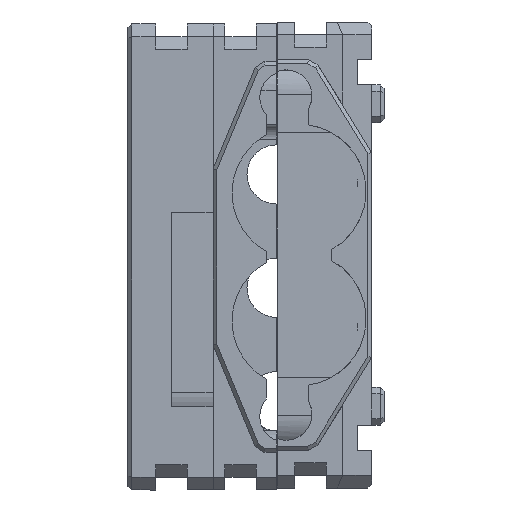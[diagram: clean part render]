
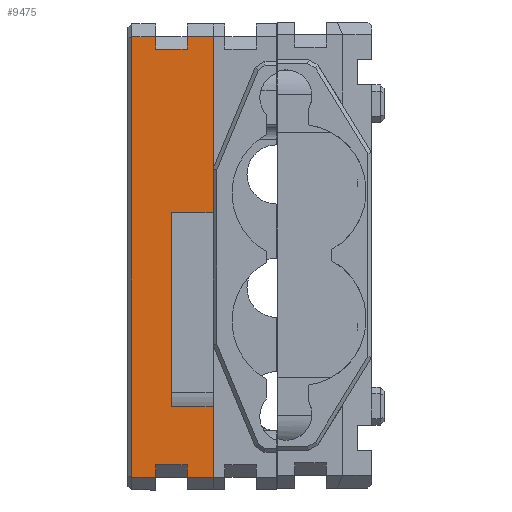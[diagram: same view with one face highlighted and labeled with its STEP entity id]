
A CAD part, left-side view. The second image highlights one B-rep face of the part: STEP entity #9475.
In plain terms, the highlighted planar face has unit normal (-1, 0, 0).
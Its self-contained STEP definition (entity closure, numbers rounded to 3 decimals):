
#861=LINE('',#14492,#2086);
#863=LINE('',#14496,#2088);
#864=LINE('',#14498,#2089);
#865=LINE('',#14500,#2090);
#866=LINE('',#14502,#2091);
#867=LINE('',#14504,#2092);
#868=LINE('',#14506,#2093);
#869=LINE('',#14508,#2094);
#870=LINE('',#14510,#2095);
#871=LINE('',#14512,#2096);
#872=LINE('',#14514,#2097);
#873=LINE('',#14516,#2098);
#874=LINE('',#14518,#2099);
#875=LINE('',#14520,#2100);
#876=LINE('',#14522,#2101);
#877=LINE('',#14523,#2102);
#2086=VECTOR('',#11782,10.);
#2088=VECTOR('',#11786,10.);
#2089=VECTOR('',#11787,10.);
#2090=VECTOR('',#11788,10.);
#2091=VECTOR('',#11789,10.);
#2092=VECTOR('',#11790,10.);
#2093=VECTOR('',#11791,10.);
#2094=VECTOR('',#11792,10.);
#2095=VECTOR('',#11793,10.);
#2096=VECTOR('',#11794,10.);
#2097=VECTOR('',#11795,10.);
#2098=VECTOR('',#11796,10.);
#2099=VECTOR('',#11797,10.);
#2100=VECTOR('',#11798,10.);
#2101=VECTOR('',#11799,10.);
#2102=VECTOR('',#11800,10.);
#2897=FACE_OUTER_BOUND('',#3403,.T.);
#3403=EDGE_LOOP('',(#7605,#7606,#7607,#7608,#7609,#7610,#7611,#7612,#7613,
#7614,#7615,#7616,#7617,#7618,#7619,#7620));
#4291=VERTEX_POINT('',#14489);
#4292=VERTEX_POINT('',#14491);
#4293=VERTEX_POINT('',#14495);
#4294=VERTEX_POINT('',#14497);
#4295=VERTEX_POINT('',#14499);
#4296=VERTEX_POINT('',#14501);
#4297=VERTEX_POINT('',#14503);
#4298=VERTEX_POINT('',#14505);
#4299=VERTEX_POINT('',#14507);
#4300=VERTEX_POINT('',#14509);
#4301=VERTEX_POINT('',#14511);
#4302=VERTEX_POINT('',#14513);
#4303=VERTEX_POINT('',#14515);
#4304=VERTEX_POINT('',#14517);
#4305=VERTEX_POINT('',#14519);
#4306=VERTEX_POINT('',#14521);
#5454=EDGE_CURVE('',#4292,#4291,#861,.T.);
#5456=EDGE_CURVE('',#4293,#4292,#863,.T.);
#5457=EDGE_CURVE('',#4291,#4294,#864,.T.);
#5458=EDGE_CURVE('',#4295,#4294,#865,.T.);
#5459=EDGE_CURVE('',#4296,#4295,#866,.T.);
#5460=EDGE_CURVE('',#4297,#4296,#867,.T.);
#5461=EDGE_CURVE('',#4298,#4297,#868,.T.);
#5462=EDGE_CURVE('',#4299,#4298,#869,.T.);
#5463=EDGE_CURVE('',#4300,#4299,#870,.T.);
#5464=EDGE_CURVE('',#4301,#4300,#871,.T.);
#5465=EDGE_CURVE('',#4302,#4301,#872,.T.);
#5466=EDGE_CURVE('',#4303,#4302,#873,.T.);
#5467=EDGE_CURVE('',#4304,#4303,#874,.T.);
#5468=EDGE_CURVE('',#4305,#4304,#875,.T.);
#5469=EDGE_CURVE('',#4306,#4305,#876,.T.);
#5470=EDGE_CURVE('',#4306,#4293,#877,.T.);
#7605=ORIENTED_EDGE('',*,*,#5456,.T.);
#7606=ORIENTED_EDGE('',*,*,#5454,.T.);
#7607=ORIENTED_EDGE('',*,*,#5457,.T.);
#7608=ORIENTED_EDGE('',*,*,#5458,.F.);
#7609=ORIENTED_EDGE('',*,*,#5459,.F.);
#7610=ORIENTED_EDGE('',*,*,#5460,.F.);
#7611=ORIENTED_EDGE('',*,*,#5461,.F.);
#7612=ORIENTED_EDGE('',*,*,#5462,.F.);
#7613=ORIENTED_EDGE('',*,*,#5463,.F.);
#7614=ORIENTED_EDGE('',*,*,#5464,.F.);
#7615=ORIENTED_EDGE('',*,*,#5465,.F.);
#7616=ORIENTED_EDGE('',*,*,#5466,.F.);
#7617=ORIENTED_EDGE('',*,*,#5467,.F.);
#7618=ORIENTED_EDGE('',*,*,#5468,.F.);
#7619=ORIENTED_EDGE('',*,*,#5469,.F.);
#7620=ORIENTED_EDGE('',*,*,#5470,.T.);
#9022=PLANE('',#10077);
#9475=ADVANCED_FACE('',(#2897),#9022,.T.);
#10077=AXIS2_PLACEMENT_3D('',#14494,#11784,#11785);
#11782=DIRECTION('',(0.,0.,1.));
#11784=DIRECTION('center_axis',(-1.,0.,0.));
#11785=DIRECTION('ref_axis',(0.,0.,1.));
#11786=DIRECTION('',(0.,1.,0.));
#11787=DIRECTION('',(0.,-1.,0.));
#11788=DIRECTION('',(0.,0.,-1.));
#11789=DIRECTION('',(0.,-1.,0.));
#11790=DIRECTION('',(0.,0.,1.));
#11791=DIRECTION('',(0.,-1.,0.));
#11792=DIRECTION('',(0.,0.,-1.));
#11793=DIRECTION('',(0.,-1.,0.));
#11794=DIRECTION('',(0.,0.,1.));
#11795=DIRECTION('',(0.,1.,0.));
#11796=DIRECTION('',(0.,0.,-1.));
#11797=DIRECTION('',(0.,1.,0.));
#11798=DIRECTION('',(0.,0.,1.));
#11799=DIRECTION('',(0.,1.,0.));
#11800=DIRECTION('',(0.,0.,1.));
#14489=CARTESIAN_POINT('',(-8.752,3.82,-11.975));
#14491=CARTESIAN_POINT('',(-8.753,3.82,-27.375));
#14492=CARTESIAN_POINT('',(-8.752,3.82,-24.612));
#14494=CARTESIAN_POINT('Origin',(-8.752,-8.885,-37.25));
#14495=CARTESIAN_POINT('',(-8.753,0.5,-27.375));
#14496=CARTESIAN_POINT('',(-8.752,-2.783,-27.375));
#14497=CARTESIAN_POINT('',(-8.752,0.5,-11.975));
#14498=CARTESIAN_POINT('',(-8.752,-2.783,-11.975));
#14499=CARTESIAN_POINT('',(-8.752,0.5,2.));
#14500=CARTESIAN_POINT('',(-8.752,0.5,3.));
#14501=CARTESIAN_POINT('',(-8.753,2.57,2.));
#14502=CARTESIAN_POINT('',(-8.752,-0.808,2.));
#14503=CARTESIAN_POINT('',(-8.752,2.57,1.));
#14504=CARTESIAN_POINT('',(-8.752,2.57,-17.125));
#14505=CARTESIAN_POINT('',(-8.752,5.07,1.));
#14506=CARTESIAN_POINT('',(-8.752,-0.808,1.));
#14507=CARTESIAN_POINT('',(-8.752,5.07,2.));
#14508=CARTESIAN_POINT('',(-8.752,5.07,-17.125));
#14509=CARTESIAN_POINT('',(-8.752,6.97,2.));
#14510=CARTESIAN_POINT('',(-8.752,-0.808,2.));
#14511=CARTESIAN_POINT('',(-8.752,6.97,-33.));
#14512=CARTESIAN_POINT('',(-8.752,6.97,-26.375));
#14513=CARTESIAN_POINT('',(-8.752,5.07,-33.));
#14514=CARTESIAN_POINT('',(-8.752,-0.808,-33.));
#14515=CARTESIAN_POINT('',(-8.752,5.07,-32.));
#14516=CARTESIAN_POINT('',(-8.752,5.07,-35.625));
#14517=CARTESIAN_POINT('',(-8.752,2.57,-32.));
#14518=CARTESIAN_POINT('',(-8.752,-0.808,-32.));
#14519=CARTESIAN_POINT('',(-8.752,2.57,-33.));
#14520=CARTESIAN_POINT('',(-8.752,2.57,-35.625));
#14521=CARTESIAN_POINT('',(-8.752,0.5,-33.));
#14522=CARTESIAN_POINT('',(-8.752,-0.808,-33.));
#14523=CARTESIAN_POINT('',(-8.752,0.5,-26.375));
